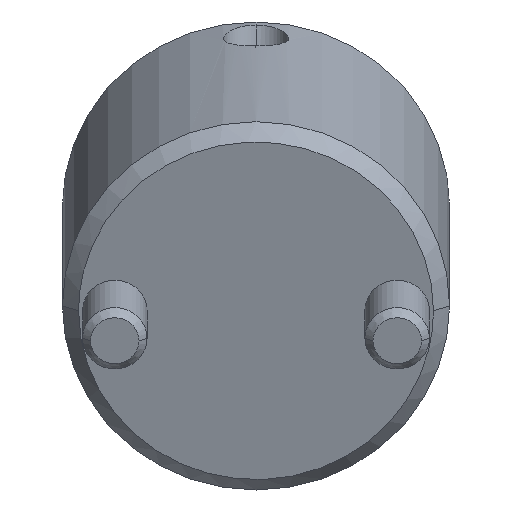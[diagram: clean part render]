
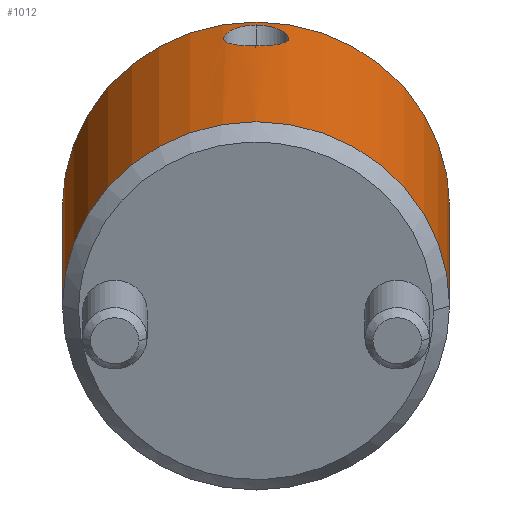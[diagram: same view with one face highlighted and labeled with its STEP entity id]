
A CAD part, front view. The second image highlights one B-rep face of the part: STEP entity #1012.
In plain terms, the highlighted cylindrical face has radius 12 mm (diameter 24 mm), a partial arc.
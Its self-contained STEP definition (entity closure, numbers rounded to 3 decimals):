
#778=CARTESIAN_POINT('Vertex',(0.,12.,1.)) ;
#781=CARTESIAN_POINT('Axis2P3D Location',(0.,0.,1.)) ;
#785=CARTESIAN_POINT('Vertex',(0.,-12.,1.)) ;
#925=CARTESIAN_POINT('Axis2P3D Location',(0.,0.,-1.1)) ;
#930=CARTESIAN_POINT('Line Origine',(0.,12.,-1.1)) ;
#934=CARTESIAN_POINT('Vertex',(0.,12.,21.)) ;
#937=CARTESIAN_POINT('Axis2P3D Location',(0.,0.,21.)) ;
#941=CARTESIAN_POINT('Vertex',(0.,-12.,21.)) ;
#944=CARTESIAN_POINT('Line Origine',(0.,-12.,-1.1)) ;
#956=CARTESIAN_POINT('Control Point',(12.,0.,20.403)) ;
#957=CARTESIAN_POINT('Control Point',(12.,0.341,20.403)) ;
#958=CARTESIAN_POINT('Control Point',(11.988,0.671,20.324)) ;
#959=CARTESIAN_POINT('Control Point',(11.964,0.986,20.166)) ;
#960=CARTESIAN_POINT('Control Point',(11.924,1.367,19.862)) ;
#961=CARTESIAN_POINT('Control Point',(11.886,1.651,19.463)) ;
#962=CARTESIAN_POINT('Control Point',(11.876,1.726,19.337)) ;
#963=CARTESIAN_POINT('Control Point',(11.856,1.854,19.075)) ;
#964=CARTESIAN_POINT('Control Point',(11.842,1.939,18.795)) ;
#965=CARTESIAN_POINT('Control Point',(11.837,1.97,18.649)) ;
#966=CARTESIAN_POINT('Control Point',(11.831,2.009,18.363)) ;
#967=CARTESIAN_POINT('Control Point',(11.832,2.,18.074)) ;
#968=CARTESIAN_POINT('Control Point',(11.835,1.984,17.931)) ;
#969=CARTESIAN_POINT('Control Point',(11.844,1.93,17.652)) ;
#970=CARTESIAN_POINT('Control Point',(11.86,1.83,17.388)) ;
#971=CARTESIAN_POINT('Control Point',(11.869,1.77,17.263)) ;
#972=CARTESIAN_POINT('Control Point',(11.89,1.629,17.023)) ;
#973=CARTESIAN_POINT('Control Point',(11.913,1.449,16.811)) ;
#974=CARTESIAN_POINT('Control Point',(11.924,1.351,16.714)) ;
#975=CARTESIAN_POINT('Control Point',(11.956,1.059,16.473)) ;
#976=CARTESIAN_POINT('Control Point',(11.982,0.714,16.305)) ;
#977=CARTESIAN_POINT('Control Point',(11.994,0.482,16.233)) ;
#978=CARTESIAN_POINT('Control Point',(12.,0.243,16.197)) ;
#979=CARTESIAN_POINT('Control Point',(12.,0.,16.197)) ;
#980=CARTESIAN_POINT('Vertex',(12.,0.,20.403)) ;
#982=CARTESIAN_POINT('Vertex',(12.,0.,16.197)) ;
#986=CARTESIAN_POINT('Control Point',(12.,0.,16.197)) ;
#987=CARTESIAN_POINT('Control Point',(12.,-0.277,16.197)) ;
#988=CARTESIAN_POINT('Control Point',(11.992,-0.549,16.243)) ;
#989=CARTESIAN_POINT('Control Point',(11.976,-0.815,16.339)) ;
#990=CARTESIAN_POINT('Control Point',(11.945,-1.178,16.546)) ;
#991=CARTESIAN_POINT('Control Point',(11.91,-1.473,16.837)) ;
#992=CARTESIAN_POINT('Control Point',(11.898,-1.562,16.941)) ;
#993=CARTESIAN_POINT('Control Point',(11.865,-1.806,17.285)) ;
#994=CARTESIAN_POINT('Control Point',(11.84,-1.957,17.684)) ;
#995=CARTESIAN_POINT('Control Point',(11.83,-2.011,17.97)) ;
#996=CARTESIAN_POINT('Control Point',(11.829,-2.022,18.405)) ;
#997=CARTESIAN_POINT('Control Point',(11.844,-1.93,18.83)) ;
#998=CARTESIAN_POINT('Control Point',(11.851,-1.887,18.97)) ;
#999=CARTESIAN_POINT('Control Point',(11.868,-1.78,19.243)) ;
#1000=CARTESIAN_POINT('Control Point',(11.889,-1.63,19.494)) ;
#1001=CARTESIAN_POINT('Control Point',(11.901,-1.545,19.614)) ;
#1002=CARTESIAN_POINT('Control Point',(11.937,-1.255,19.958)) ;
#1003=CARTESIAN_POINT('Control Point',(11.972,-0.885,20.214)) ;
#1004=CARTESIAN_POINT('Control Point',(11.99,-0.603,20.339)) ;
#1005=CARTESIAN_POINT('Control Point',(12.,-0.306,20.403)) ;
#1006=CARTESIAN_POINT('Control Point',(12.,0.,20.403)) ;
#782=DIRECTION('Axis2P3D Direction',(0.,0.,1.)) ;
#926=DIRECTION('Axis2P3D Direction',(0.,-0.,1.)) ;
#927=DIRECTION('Axis2P3D XDirection',(0.,-1.,0.)) ;
#931=DIRECTION('Vector Direction',(0.,0.,1.)) ;
#938=DIRECTION('Axis2P3D Direction',(0.,-0.,1.)) ;
#945=DIRECTION('Vector Direction',(0.,0.,1.)) ;
#783=AXIS2_PLACEMENT_3D('Circle Axis2P3D',#781,#782,$) ;
#928=AXIS2_PLACEMENT_3D('Cylinder Axis2P3D',#925,#926,#927) ;
#939=AXIS2_PLACEMENT_3D('Circle Axis2P3D',#937,#938,$) ;
#950=ORIENTED_EDGE('',*,*,#936,.F.) ;
#951=ORIENTED_EDGE('',*,*,#943,.T.) ;
#952=ORIENTED_EDGE('',*,*,#948,.T.) ;
#953=ORIENTED_EDGE('',*,*,#787,.F.) ;
#1009=ORIENTED_EDGE('',*,*,#984,.T.) ;
#1010=ORIENTED_EDGE('',*,*,#1007,.T.) ;
#1011=FACE_BOUND('',#1008,.T.) ;
#932=VECTOR('Line Direction',#931,1.) ;
#946=VECTOR('Line Direction',#945,1.) ;
#1012=ADVANCED_FACE('MANIFOLD_SOLID_BREP #1096',(#954,#1011),#929,.T.) ;
#955=B_SPLINE_CURVE_WITH_KNOTS('',5,(#956,#957,#958,#959,#960,#961,#962,#963,#964,#965,#966,#967,#968,#969,#970,#971,#972,#973,#974,#975,#976,#977,#978,#979),.UNSPECIFIED.,.F.,.U.,(6,3,3,3,3,3,3,6),(0.,2.411,3.437,4.458,5.457,6.442,7.421,9.138),.UNSPECIFIED.) ;
#985=B_SPLINE_CURVE_WITH_KNOTS('',5,(#986,#987,#988,#989,#990,#991,#992,#993,#994,#995,#996,#997,#998,#999,#1000,#1001,#1002,#1003,#1004,#1005,#1006),.UNSPECIFIED.,.F.,.U.,(6,3,3,3,3,3,6),(0.,1.96,2.94,4.935,5.963,6.984,9.144),.UNSPECIFIED.) ;
#784=CIRCLE('generated circle',#783,12.) ;
#940=CIRCLE('generated circle',#939,12.) ;
#929=CYLINDRICAL_SURFACE('generated cylinder',#928,12.) ;
#787=EDGE_CURVE('',#779,#786,#784,.F.) ;
#936=EDGE_CURVE('',#935,#779,#933,.F.) ;
#943=EDGE_CURVE('',#935,#942,#940,.F.) ;
#948=EDGE_CURVE('',#942,#786,#947,.F.) ;
#984=EDGE_CURVE('',#981,#983,#955,.T.) ;
#1007=EDGE_CURVE('',#983,#981,#985,.T.) ;
#949=EDGE_LOOP('',(#950,#951,#952,#953)) ;
#1008=EDGE_LOOP('',(#1009,#1010)) ;
#954=FACE_OUTER_BOUND('',#949,.T.) ;
#933=LINE('Line',#930,#932) ;
#947=LINE('Line',#944,#946) ;
#779=VERTEX_POINT('',#778) ;
#786=VERTEX_POINT('',#785) ;
#935=VERTEX_POINT('',#934) ;
#942=VERTEX_POINT('',#941) ;
#981=VERTEX_POINT('',#980) ;
#983=VERTEX_POINT('',#982) ;
